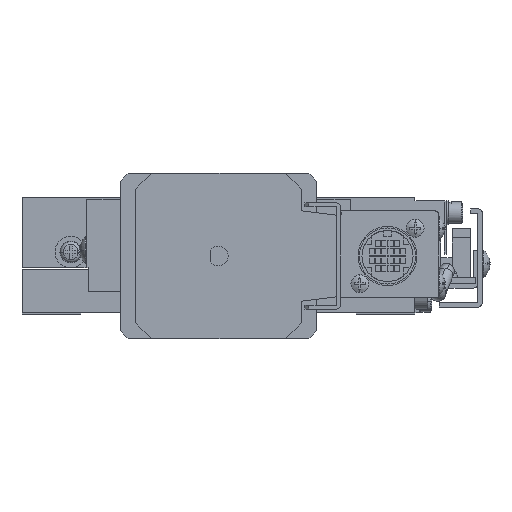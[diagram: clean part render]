
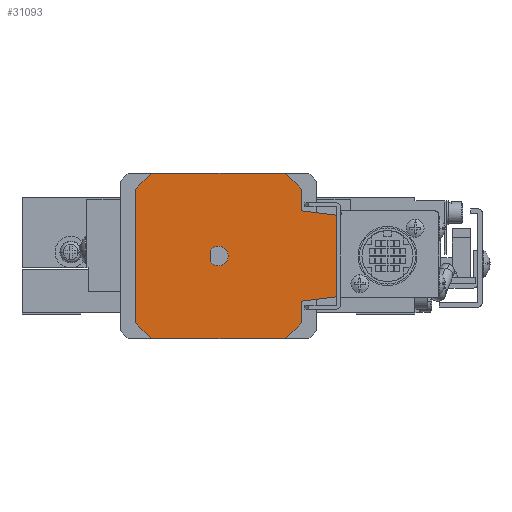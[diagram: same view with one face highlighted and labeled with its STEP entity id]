
A CAD part, left-side view. The second image highlights one B-rep face of the part: STEP entity #31093.
In plain terms, the highlighted planar face has unit normal (-1, 0, 0).
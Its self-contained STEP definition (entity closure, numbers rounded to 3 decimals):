
#481 = ORIENTED_EDGE ( 'NONE', *, *, #31732, .F. ) ;
#842 = DIRECTION ( 'NONE',  ( 1., 0., 0. ) ) ;
#1288 = FACE_OUTER_BOUND ( 'NONE', #25396, .T. ) ;
#1666 = DIRECTION ( 'NONE',  ( 0., -0.778, -0.629 ) ) ;
#2545 = DIRECTION ( 'NONE',  ( 0., -0.629, 0.778 ) ) ;
#2664 = DIRECTION ( 'NONE',  ( 0., 0., -1. ) ) ;
#2996 = CARTESIAN_POINT ( 'NONE',  ( -165., -21., 3.5 ) ) ;
#3370 = LINE ( 'NONE', #39583, #34853 ) ;
#3485 = VERTEX_POINT ( 'NONE', #47459 ) ;
#4253 = DIRECTION ( 'NONE',  ( 0., 0.993, -0.122 ) ) ;
#5842 = DIRECTION ( 'NONE',  ( 0., -0.122, 0.993 ) ) ;
#6779 = CIRCLE ( 'NONE', #12309, 27. ) ;
#7464 = EDGE_CURVE ( 'NONE', #27088, #29513, #34772, .T. ) ;
#7747 = VERTEX_POINT ( 'NONE', #38400 ) ;
#7980 = VECTOR ( 'NONE', #2664, 1000. ) ;
#8702 = CARTESIAN_POINT ( 'NONE',  ( -165., 2., 16.5 ) ) ;
#8945 = EDGE_CURVE ( 'NONE', #10813, #50914, #34571, .T. ) ;
#10256 = CARTESIAN_POINT ( 'NONE',  ( -165., -21., 31.971 ) ) ;
#10813 = VERTEX_POINT ( 'NONE', #8702 ) ;
#10873 = CARTESIAN_POINT ( 'NONE',  ( -165., 21., -1.971 ) ) ;
#12309 = AXIS2_PLACEMENT_3D ( 'NONE', #15603, #842, #1666 ) ;
#12523 = EDGE_CURVE ( 'NONE', #57600, #49342, #6779, .T. ) ;
#12530 = AXIS2_PLACEMENT_3D ( 'NONE', #52839, #48116, #44845 ) ;
#12584 = VECTOR ( 'NONE', #53359, 1000. ) ;
#12864 = CARTESIAN_POINT ( 'NONE',  ( -165., 21., 31.971 ) ) ;
#13835 = DIRECTION ( 'NONE',  ( 1., 0., 0. ) ) ;
#14079 = ORIENTED_EDGE ( 'NONE', *, *, #16237, .F. ) ;
#14273 = LINE ( 'NONE', #10256, #34756 ) ;
#15603 = CARTESIAN_POINT ( 'NONE',  ( -165., 0., 15. ) ) ;
#15782 = VECTOR ( 'NONE', #4253, 1000. ) ;
#15818 = DIRECTION ( 'NONE',  ( 0., 0.629, -0.778 ) ) ;
#16237 = EDGE_CURVE ( 'NONE', #3485, #7747, #59919, .T. ) ;
#16529 = CARTESIAN_POINT ( 'NONE',  ( -165., 0., 15. ) ) ;
#17121 = ORIENTED_EDGE ( 'NONE', *, *, #17723, .F. ) ;
#17247 = AXIS2_PLACEMENT_3D ( 'NONE', #58664, #44323, #49443 ) ;
#17723 = EDGE_CURVE ( 'NONE', #43543, #34177, #22521, .T. ) ;
#18056 = CARTESIAN_POINT ( 'NONE',  ( -165., -16.971, -6. ) ) ;
#18690 = EDGE_CURVE ( 'NONE', #38701, #3485, #3370, .T. ) ;
#19434 = AXIS2_PLACEMENT_3D ( 'NONE', #24975, #30068, #15818 ) ;
#19733 = CARTESIAN_POINT ( 'NONE',  ( -165., -21., -1.971 ) ) ;
#20184 = AXIS2_PLACEMENT_3D ( 'NONE', #36730, #13835, #60606 ) ;
#20212 = CARTESIAN_POINT ( 'NONE',  ( -165., 2., 13.5 ) ) ;
#20438 = LINE ( 'NONE', #53942, #7980 ) ;
#20565 = PLANE ( 'NONE',  #12530 ) ;
#20828 = ORIENTED_EDGE ( 'NONE', *, *, #34680, .F. ) ;
#22189 = CARTESIAN_POINT ( 'NONE',  ( -165., -16.971, 36. ) ) ;
#22521 = CIRCLE ( 'NONE', #30542, 27. ) ;
#24170 = VECTOR ( 'NONE', #45058, 1000. ) ;
#24525 = ORIENTED_EDGE ( 'NONE', *, *, #48888, .F. ) ;
#24557 = DIRECTION ( 'NONE',  ( 0., 0., -1. ) ) ;
#24975 = CARTESIAN_POINT ( 'NONE',  ( -165., 0., 15. ) ) ;
#24997 = VECTOR ( 'NONE', #60159, 1000. ) ;
#25002 = ORIENTED_EDGE ( 'NONE', *, *, #40089, .F. ) ;
#25396 = EDGE_LOOP ( 'NONE', ( #17121, #38434, #20828, #25002, #38229, #34253, #41225, #481, #56978, #14079, #38410, #24525, #28610, #42168 ) ) ;
#26238 = CARTESIAN_POINT ( 'NONE',  ( -165., -21., 26.5 ) ) ;
#26572 = EDGE_LOOP ( 'NONE', ( #30073, #47190 ) ) ;
#27088 = VERTEX_POINT ( 'NONE', #59551 ) ;
#28610 = ORIENTED_EDGE ( 'NONE', *, *, #38763, .F. ) ;
#29513 = VERTEX_POINT ( 'NONE', #58235 ) ;
#29743 = CARTESIAN_POINT ( 'NONE',  ( -165., 21., -1.971 ) ) ;
#30068 = DIRECTION ( 'NONE',  ( 1., 0., 0. ) ) ;
#30073 = ORIENTED_EDGE ( 'NONE', *, *, #59348, .T. ) ;
#30542 = AXIS2_PLACEMENT_3D ( 'NONE', #16529, #30590, #35320 ) ;
#30590 = DIRECTION ( 'NONE',  ( 1., 0., 0. ) ) ;
#30931 = CARTESIAN_POINT ( 'NONE',  ( -165., 16.971, 36. ) ) ;
#31093 = ADVANCED_FACE ( 'NONE', ( #1288, #56115 ), #20565, .F. ) ;
#31732 = EDGE_CURVE ( 'NONE', #52170, #27088, #33428, .T. ) ;
#32063 = CARTESIAN_POINT ( 'NONE',  ( -165., -29.561, 4.551 ) ) ;
#33428 = CIRCLE ( 'NONE', #17247, 0.5 ) ;
#33759 = VERTEX_POINT ( 'NONE', #29743 ) ;
#33800 = VECTOR ( 'NONE', #45871, 1000. ) ;
#34177 = VERTEX_POINT ( 'NONE', #30931 ) ;
#34253 = ORIENTED_EDGE ( 'NONE', *, *, #39295, .F. ) ;
#34571 = LINE ( 'NONE', #49189, #33800 ) ;
#34680 = EDGE_CURVE ( 'NONE', #59544, #33759, #44792, .T. ) ;
#34756 = VECTOR ( 'NONE', #24557, 1000. ) ;
#34772 = LINE ( 'NONE', #32063, #15782 ) ;
#34853 = VECTOR ( 'NONE', #58603, 1000. ) ;
#35320 = DIRECTION ( 'NONE',  ( 0., 0.778, 0.629 ) ) ;
#35328 = DIRECTION ( 'NONE',  ( 0., 0., -1. ) ) ;
#36070 = AXIS2_PLACEMENT_3D ( 'NONE', #49335, #48925, #2545 ) ;
#36480 = CARTESIAN_POINT ( 'NONE',  ( -165., 16.971, 36. ) ) ;
#36634 = LINE ( 'NONE', #36480, #24170 ) ;
#36730 = CARTESIAN_POINT ( 'NONE',  ( -165., 0., 15. ) ) ;
#37123 = CARTESIAN_POINT ( 'NONE',  ( -165., -30., 5.047 ) ) ;
#38229 = ORIENTED_EDGE ( 'NONE', *, *, #12523, .F. ) ;
#38348 = AXIS2_PLACEMENT_3D ( 'NONE', #51395, #56086, #5842 ) ;
#38400 = CARTESIAN_POINT ( 'NONE',  ( -165., -30., 24.953 ) ) ;
#38410 = ORIENTED_EDGE ( 'NONE', *, *, #18690, .F. ) ;
#38434 = ORIENTED_EDGE ( 'NONE', *, *, #50367, .F. ) ;
#38701 = VERTEX_POINT ( 'NONE', #26238 ) ;
#38763 = EDGE_CURVE ( 'NONE', #56562, #44541, #53670, .T. ) ;
#39295 = EDGE_CURVE ( 'NONE', #29513, #57600, #55040, .T. ) ;
#39583 = CARTESIAN_POINT ( 'NONE',  ( -165., -21., 26.5 ) ) ;
#40089 = EDGE_CURVE ( 'NONE', #49342, #59544, #53504, .T. ) ;
#41225 = ORIENTED_EDGE ( 'NONE', *, *, #7464, .F. ) ;
#41450 = CIRCLE ( 'NONE', #20184, 2.5 ) ;
#42168 = ORIENTED_EDGE ( 'NONE', *, *, #44093, .F. ) ;
#43543 = VERTEX_POINT ( 'NONE', #12864 ) ;
#43766 = CARTESIAN_POINT ( 'NONE',  ( -165., -21., 31.971 ) ) ;
#44093 = EDGE_CURVE ( 'NONE', #34177, #56562, #36634, .T. ) ;
#44323 = DIRECTION ( 'NONE',  ( 1., 0., 0. ) ) ;
#44541 = VERTEX_POINT ( 'NONE', #43766 ) ;
#44792 = CIRCLE ( 'NONE', #19434, 27. ) ;
#44845 = DIRECTION ( 'NONE',  ( 0., 0., -1. ) ) ;
#44928 = EDGE_CURVE ( 'NONE', #7747, #52170, #20438, .T. ) ;
#45058 = DIRECTION ( 'NONE',  ( 0., -1., 0. ) ) ;
#45871 = DIRECTION ( 'NONE',  ( 0., 0., -1. ) ) ;
#46538 = CARTESIAN_POINT ( 'NONE',  ( -165., -16.971, -6. ) ) ;
#47190 = ORIENTED_EDGE ( 'NONE', *, *, #8945, .F. ) ;
#47459 = CARTESIAN_POINT ( 'NONE',  ( -165., -29.561, 25.449 ) ) ;
#48116 = DIRECTION ( 'NONE',  ( 1., 0., 0. ) ) ;
#48384 = LINE ( 'NONE', #10873, #12584 ) ;
#48888 = EDGE_CURVE ( 'NONE', #44541, #38701, #14273, .T. ) ;
#48925 = DIRECTION ( 'NONE',  ( 1., 0., 0. ) ) ;
#49189 = CARTESIAN_POINT ( 'NONE',  ( -165., 2., 16.5 ) ) ;
#49335 = CARTESIAN_POINT ( 'NONE',  ( -165., 0., 15. ) ) ;
#49342 = VERTEX_POINT ( 'NONE', #46538 ) ;
#49443 = DIRECTION ( 'NONE',  ( 0., -1., 0. ) ) ;
#50367 = EDGE_CURVE ( 'NONE', #33759, #43543, #48384, .T. ) ;
#50914 = VERTEX_POINT ( 'NONE', #20212 ) ;
#51395 = CARTESIAN_POINT ( 'NONE',  ( -165., -29.5, 24.953 ) ) ;
#52170 = VERTEX_POINT ( 'NONE', #37123 ) ;
#52839 = CARTESIAN_POINT ( 'NONE',  ( -165., -54.051, 64.551 ) ) ;
#53359 = DIRECTION ( 'NONE',  ( 0., 0., 1. ) ) ;
#53504 = LINE ( 'NONE', #18056, #24997 ) ;
#53670 = CIRCLE ( 'NONE', #36070, 27. ) ;
#53942 = CARTESIAN_POINT ( 'NONE',  ( -165., -30., 24.953 ) ) ;
#55040 = LINE ( 'NONE', #2996, #60171 ) ;
#56086 = DIRECTION ( 'NONE',  ( 1., 0., 0. ) ) ;
#56115 = FACE_BOUND ( 'NONE', #26572, .T. ) ;
#56304 = CARTESIAN_POINT ( 'NONE',  ( -165., 16.971, -6. ) ) ;
#56562 = VERTEX_POINT ( 'NONE', #22189 ) ;
#56978 = ORIENTED_EDGE ( 'NONE', *, *, #44928, .F. ) ;
#57600 = VERTEX_POINT ( 'NONE', #19733 ) ;
#58235 = CARTESIAN_POINT ( 'NONE',  ( -165., -21., 3.5 ) ) ;
#58603 = DIRECTION ( 'NONE',  ( 0., -0.993, -0.122 ) ) ;
#58664 = CARTESIAN_POINT ( 'NONE',  ( -165., -29.5, 5.047 ) ) ;
#59348 = EDGE_CURVE ( 'NONE', #10813, #50914, #41450, .T. ) ;
#59544 = VERTEX_POINT ( 'NONE', #56304 ) ;
#59551 = CARTESIAN_POINT ( 'NONE',  ( -165., -29.561, 4.551 ) ) ;
#59919 = CIRCLE ( 'NONE', #38348, 0.5 ) ;
#60159 = DIRECTION ( 'NONE',  ( 0., 1., 0. ) ) ;
#60171 = VECTOR ( 'NONE', #35328, 1000. ) ;
#60606 = DIRECTION ( 'NONE',  ( 0., 0.8, 0.6 ) ) ;
